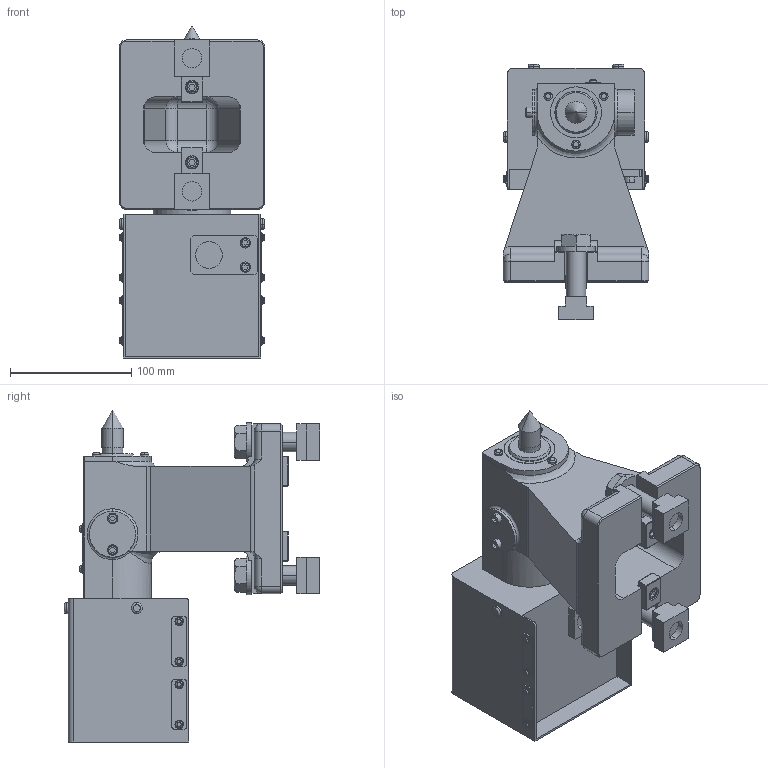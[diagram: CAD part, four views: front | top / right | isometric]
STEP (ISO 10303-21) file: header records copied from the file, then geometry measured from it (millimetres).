
FILE_DESCRIPTION (( 'STEP AP214' ), '1' );
FILE_NAME ('MR160A(H)N.STEP', '2020-03-17T09:05:42', ( '' ), ( '' ), 'SwSTEP 2.0', 'SolidWorks 2017', '' );
FILE_SCHEMA (( 'AUTOMOTIVE_DESIGN' ));
Length unit declared in the file: millimetre
Products named in the file (12): 僇僶乕PAD(61E3725728)MR160AN; ネームプレート(61E4736691); センタソケット(61E3654831)MR160RS001; カバー(61E4407170)RS100LS; クランププレート(61E4407141)RS100LS; ガイドブロック(61M4197783); ボデー(61E2468791)MR160RN; MR160A(H)N; CLAMPING PARTS(61E4343671)結合; MR160A(H)N儂儞僞僀; 0030108012; シールホルダ(61E4421451)RS100LSA
Assembly tree (13 placements, depth 3):
  MR160A(H)N
    MR160A(H)N儂儞僞僀
      ボデー(61E2468791)MR160RN
      ガイドブロック(61M4197783)  x2
      クランププレート(61E4407141)RS100LS
      カバー(61E4407170)RS100LS
      センタソケット(61E3654831)MR160RS001
      ネームプレート(61E4736691)
      僇僶乕PAD(61E3725728)MR160AN
      シールホルダ(61E4421451)RS100LSA
      0030108012
    CLAMPING PARTS(61E4343671)結合  x2
Bounding box: 120.2 x 210.9 x 274 mm (x, y, z)
Volume: 2219696.7 mm3; surface area: 237913.5 mm2
Topology: 12 solids, 12 shells, 2017 faces, 5496 edges, 3593 vertices
Faces by surface type: plane 1684, cylinder 202, torus 50, cone 38, bspline 31, sphere 12
Entity records: 69135 total; most frequent: CARTESIAN_POINT 14548, ORIENTED_EDGE 10636, DIRECTION 9576, EDGE_CURVE 5318, VECTOR 4716, LINE 4716, VERTEX_POINT 3493, AXIS2_PLACEMENT_3D 2430
